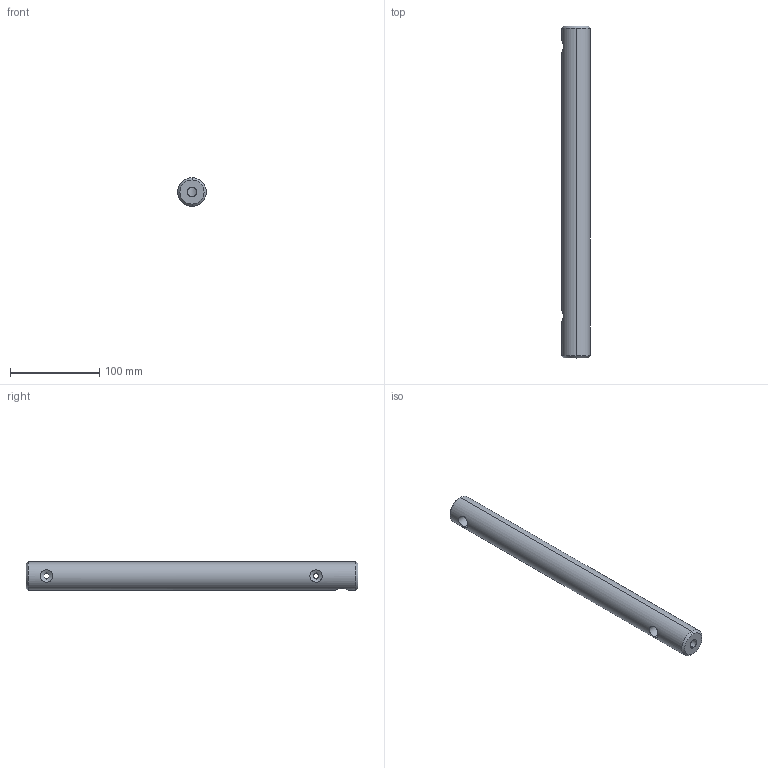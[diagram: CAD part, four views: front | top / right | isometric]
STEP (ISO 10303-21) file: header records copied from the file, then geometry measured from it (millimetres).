
FILE_DESCRIPTION (( 'STEP AP214' ), '1' );
FILE_NAME ('ãëàâíûé âàë.STEP', '2024-09-18T09:10:22', ( '' ), ( '' ), 'SwSTEP 2.0', 'SolidWorks 2021', '' );
FILE_SCHEMA (( 'AUTOMOTIVE_DESIGN' ));
Length unit declared in the file: millimetre
Products named in the file (1): ãëàâíûé âàë
Bounding box: 32 x 372 x 32 mm (x, y, z)
Volume: 286602.7 mm3; surface area: 41874.1 mm2
Topology: 1 solids, 1 shells, 26 faces, 61 edges, 35 vertices
Faces by surface type: cylinder 14, cone 10, plane 2
Entity records: 1245 total; most frequent: CARTESIAN_POINT 607, DIRECTION 119, ORIENTED_EDGE 118, EDGE_CURVE 59, AXIS2_PLACEMENT_3D 47, VERTEX_POINT 35, EDGE_LOOP 32, FACE_OUTER_BOUND 26
